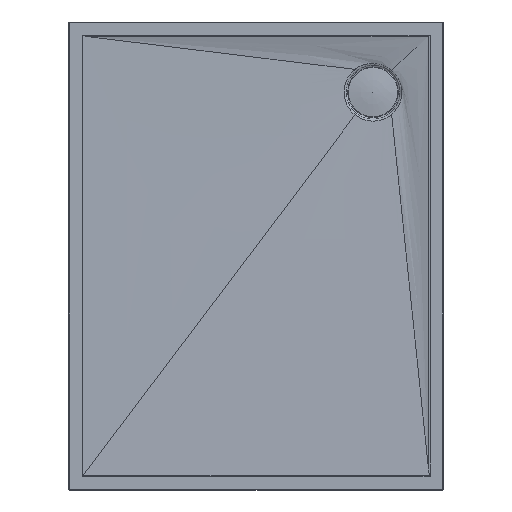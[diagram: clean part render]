
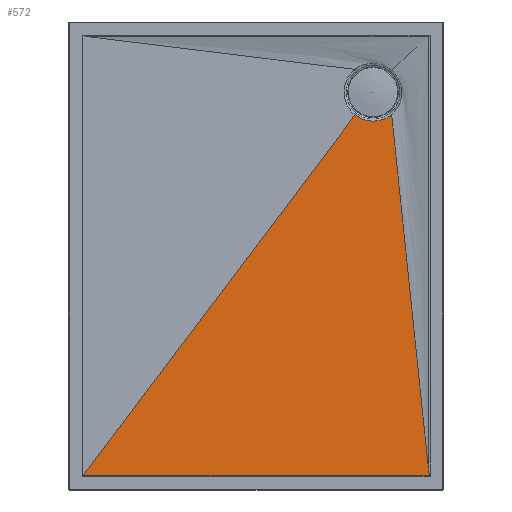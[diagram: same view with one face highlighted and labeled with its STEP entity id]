
A CAD part, top view. The second image highlights one B-rep face of the part: STEP entity #572.
In plain terms, the highlighted free-form (B-spline) face has degree [3, 3] with [7, 4] control points.
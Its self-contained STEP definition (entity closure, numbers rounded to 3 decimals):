
#20=B_SPLINE_CURVE_WITH_KNOTS('',3,(#919,#920,#921,#922,#923,#924,#925),
 .UNSPECIFIED.,.F.,.F.,(4,3,4),(0.045,0.047,0.064),
 .UNSPECIFIED.);
#32=B_SPLINE_CURVE_WITH_KNOTS('',3,(#1056,#1057,#1058,#1059,#1060,#1061,
#1062,#1063,#1064,#1065),.UNSPECIFIED.,.F.,.F.,(4,2,2,2,4),(-1.09,
-0.561,-0.177,-0.075,-0.045),
 .UNSPECIFIED.);
#35=B_SPLINE_CURVE_WITH_KNOTS('',3,(#1093,#1094,#1095,#1096),
 .UNSPECIFIED.,.F.,.F.,(4,4),(0.,0.146),
 .UNSPECIFIED.);
#36=B_SPLINE_CURVE_WITH_KNOTS('',3,(#1098,#1099,#1100,#1101),
 .UNSPECIFIED.,.F.,.F.,(4,4),(0.,73.983),
 .UNSPECIFIED.);
#37=B_SPLINE_CURVE_WITH_KNOTS('',3,(#1102,#1103,#1104,#1105),
 .UNSPECIFIED.,.F.,.F.,(4,4),(-73.985,-73.983),
 .UNSPECIFIED.);
#42=B_SPLINE_SURFACE_WITH_KNOTS('',3,3,((#1106,#1107,#1108,#1109),(#1110,
#1111,#1112,#1113),(#1114,#1115,#1116,#1117),(#1118,#1119,#1120,#1121),
(#1122,#1123,#1124,#1125),(#1126,#1127,#1128,#1129),(#1130,#1131,#1132,
#1133)),.UNSPECIFIED.,.F.,.F.,.F.,(4,1,1,1,4),(4,4),(-0.002,
0.141,0.427,0.714,1.),(0.,
1.),.UNSPECIFIED.);
#51=LINE('',#1135,#78);
#52=LINE('',#1140,#79);
#78=VECTOR('',#709,777.008);
#79=VECTOR('',#714,966.247);
#129=FACE_OUTER_BOUND('',#164,.T.);
#164=EDGE_LOOP('',(#425,#426,#427,#428,#429,#430,#431,#432,#433));
#201=CIRCLE('',#626,61.89);
#202=CIRCLE('',#627,61.89);
#243=VERTEX_POINT('',#913);
#244=VERTEX_POINT('',#918);
#253=VERTEX_POINT('',#1045);
#254=VERTEX_POINT('',#1055);
#255=VERTEX_POINT('',#1092);
#256=VERTEX_POINT('',#1097);
#257=VERTEX_POINT('',#1134);
#258=VERTEX_POINT('',#1136);
#259=VERTEX_POINT('',#1138);
#304=EDGE_CURVE('',#243,#244,#20,.T.);
#316=EDGE_CURVE('',#253,#254,#32,.T.);
#319=EDGE_CURVE('',#255,#254,#35,.T.);
#320=EDGE_CURVE('',#255,#256,#36,.T.);
#321=EDGE_CURVE('',#243,#256,#37,.T.);
#322=EDGE_CURVE('',#253,#257,#51,.T.);
#323=EDGE_CURVE('',#257,#258,#201,.T.);
#324=EDGE_CURVE('',#258,#259,#202,.T.);
#325=EDGE_CURVE('',#244,#259,#52,.T.);
#425=ORIENTED_EDGE('',*,*,#320,.F.);
#426=ORIENTED_EDGE('',*,*,#319,.T.);
#427=ORIENTED_EDGE('',*,*,#316,.F.);
#428=ORIENTED_EDGE('',*,*,#322,.T.);
#429=ORIENTED_EDGE('',*,*,#323,.T.);
#430=ORIENTED_EDGE('',*,*,#324,.T.);
#431=ORIENTED_EDGE('',*,*,#325,.F.);
#432=ORIENTED_EDGE('',*,*,#304,.F.);
#433=ORIENTED_EDGE('',*,*,#321,.T.);
#572=ADVANCED_FACE('',(#129),#42,.F.);
#626=AXIS2_PLACEMENT_3D('',#1137,#710,#711);
#627=AXIS2_PLACEMENT_3D('',#1139,#712,#713);
#709=DIRECTION('',(-0.103,0.994,-0.019));
#710=DIRECTION('center_axis',(0.,0.,-1.));
#711=DIRECTION('ref_axis',(-1.,0.,0.));
#712=DIRECTION('center_axis',(0.,0.,-1.));
#713=DIRECTION('ref_axis',(-1.,0.,0.));
#714=DIRECTION('',(0.602,0.798,-0.016));
#913=CARTESIAN_POINT('',(6506.833,2267.663,30.078));
#918=CARTESIAN_POINT('',(6506.96,2267.81,30.075));
#919=CARTESIAN_POINT('Ctrl Pts',(6506.833,2267.663,30.078));
#920=CARTESIAN_POINT('Ctrl Pts',(6506.839,2267.669,30.077));
#921=CARTESIAN_POINT('Ctrl Pts',(6506.845,2267.675,30.077));
#922=CARTESIAN_POINT('Ctrl Pts',(6506.851,2267.682,30.077));
#923=CARTESIAN_POINT('Ctrl Pts',(6506.89,2267.722,30.076));
#924=CARTESIAN_POINT('Ctrl Pts',(6506.926,2267.766,30.076));
#925=CARTESIAN_POINT('Ctrl Pts',(6506.96,2267.81,30.075));
#1045=CARTESIAN_POINT('',(7244.942,2284.459,29.751));
#1055=CARTESIAN_POINT('',(7248.138,2267.663,30.078));
#1056=CARTESIAN_POINT('Ctrl Pts',(7244.942,2284.459,29.751));
#1057=CARTESIAN_POINT('Ctrl Pts',(7245.259,2281.403,29.811));
#1058=CARTESIAN_POINT('Ctrl Pts',(7245.674,2277.827,29.88));
#1059=CARTESIAN_POINT('Ctrl Pts',(7246.518,2272.556,29.983));
#1060=CARTESIAN_POINT('Ctrl Pts',(7246.953,2270.349,30.025));
#1061=CARTESIAN_POINT('Ctrl Pts',(7247.592,2268.574,30.06));
#1062=CARTESIAN_POINT('Ctrl Pts',(7247.757,2268.188,30.067));
#1063=CARTESIAN_POINT('Ctrl Pts',(7248.001,2267.821,30.074));
#1064=CARTESIAN_POINT('Ctrl Pts',(7248.066,2267.735,30.076));
#1065=CARTESIAN_POINT('Ctrl Pts',(7248.138,2267.663,30.078));
#1092=CARTESIAN_POINT('',(7246.682,2267.663,30.078));
#1093=CARTESIAN_POINT('Ctrl Pts',(7246.682,2267.663,30.078));
#1094=CARTESIAN_POINT('Ctrl Pts',(7247.168,2267.663,30.078));
#1095=CARTESIAN_POINT('Ctrl Pts',(7247.653,2267.663,30.078));
#1096=CARTESIAN_POINT('Ctrl Pts',(7248.138,2267.663,30.078));
#1097=CARTESIAN_POINT('',(6506.849,2267.663,30.078));
#1098=CARTESIAN_POINT('Ctrl Pts',(7246.682,2267.663,30.078));
#1099=CARTESIAN_POINT('Ctrl Pts',(7000.071,2267.667,30.077));
#1100=CARTESIAN_POINT('Ctrl Pts',(6753.46,2267.667,30.077));
#1101=CARTESIAN_POINT('Ctrl Pts',(6506.849,2267.663,30.078));
#1102=CARTESIAN_POINT('Ctrl Pts',(6506.833,2267.663,30.078));
#1103=CARTESIAN_POINT('Ctrl Pts',(6506.838,2267.663,30.078));
#1104=CARTESIAN_POINT('Ctrl Pts',(6506.844,2267.663,30.078));
#1105=CARTESIAN_POINT('Ctrl Pts',(6506.849,2267.663,30.078));
#1106=CARTESIAN_POINT('Ctrl Pts',(7248.138,2267.663,30.078));
#1107=CARTESIAN_POINT('Ctrl Pts',(7221.018,2525.21,25.079));
#1108=CARTESIAN_POINT('Ctrl Pts',(7193.897,2782.757,20.08));
#1109=CARTESIAN_POINT('Ctrl Pts',(7166.776,3040.304,15.081));
#1110=CARTESIAN_POINT('Ctrl Pts',(7212.838,2267.662,30.078));
#1111=CARTESIAN_POINT('Ctrl Pts',(7196.457,2524.338,25.079));
#1112=CARTESIAN_POINT('Ctrl Pts',(7180.078,2781.012,20.08));
#1113=CARTESIAN_POINT('Ctrl Pts',(7163.696,3037.688,15.081));
#1114=CARTESIAN_POINT('Ctrl Pts',(7106.938,2267.66,30.078));
#1115=CARTESIAN_POINT('Ctrl Pts',(7122.522,2522.019,25.079));
#1116=CARTESIAN_POINT('Ctrl Pts',(7138.106,2776.38,20.08));
#1117=CARTESIAN_POINT('Ctrl Pts',(7153.69,3030.739,15.081));
#1118=CARTESIAN_POINT('Ctrl Pts',(6930.436,2267.659,30.078));
#1119=CARTESIAN_POINT('Ctrl Pts',(6998.321,2519.907,25.079));
#1120=CARTESIAN_POINT('Ctrl Pts',(7066.208,2772.157,20.08));
#1121=CARTESIAN_POINT('Ctrl Pts',(7134.093,3024.405,15.081));
#1122=CARTESIAN_POINT('Ctrl Pts',(6718.634,2267.659,30.078));
#1123=CARTESIAN_POINT('Ctrl Pts',(6848.907,2520.56,25.079));
#1124=CARTESIAN_POINT('Ctrl Pts',(6979.18,2773.464,20.08));
#1125=CARTESIAN_POINT('Ctrl Pts',(7109.452,3026.365,15.081));
#1126=CARTESIAN_POINT('Ctrl Pts',(6577.433,2267.661,30.078));
#1127=CARTESIAN_POINT('Ctrl Pts',(6749.877,2523.053,25.079));
#1128=CARTESIAN_POINT('Ctrl Pts',(6922.325,2778.449,20.08));
#1129=CARTESIAN_POINT('Ctrl Pts',(7094.769,3033.841,15.081));
#1130=CARTESIAN_POINT('Ctrl Pts',(6506.833,2267.662,30.078));
#1131=CARTESIAN_POINT('Ctrl Pts',(6700.695,2524.722,25.079));
#1132=CARTESIAN_POINT('Ctrl Pts',(6894.556,2781.781,20.08));
#1133=CARTESIAN_POINT('Ctrl Pts',(7088.418,3038.84,15.081));
#1134=CARTESIAN_POINT('',(7166.649,3040.197,15.081));
#1135=CARTESIAN_POINT('',(7246.702,2267.469,30.081));
#1136=CARTESIAN_POINT('',(7165.37,3039.145,15.081));
#1137=CARTESIAN_POINT('Origin',(7126.702,3087.469,15.081));
#1138=CARTESIAN_POINT('',(7088.42,3038.839,15.081));
#1139=CARTESIAN_POINT('Origin',(7126.702,3087.469,15.081));
#1140=CARTESIAN_POINT('',(6506.702,2267.469,30.081));
